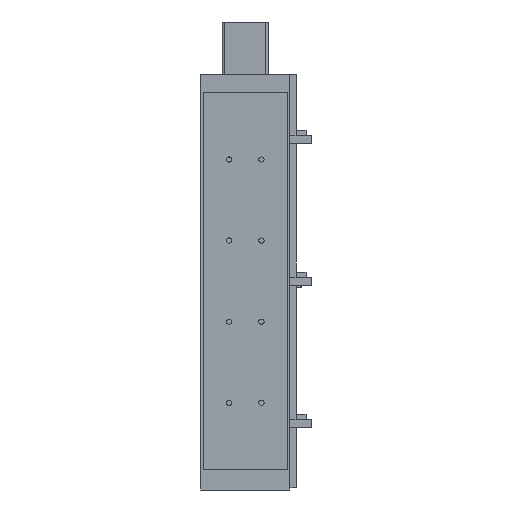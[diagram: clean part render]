
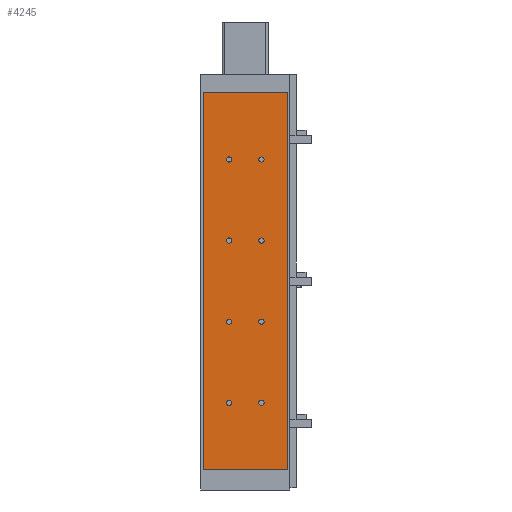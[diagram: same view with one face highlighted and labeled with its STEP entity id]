
A CAD part, front view. The second image highlights one B-rep face of the part: STEP entity #4245.
In plain terms, the highlighted planar face has unit normal (0, -1, 0).
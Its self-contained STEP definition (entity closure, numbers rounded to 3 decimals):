
#105=CARTESIAN_POINT('',(-23.25,0.,407.5));
#106=VERTEX_POINT('',#105);
#107=CARTESIAN_POINT('',(-20.,0.0,407.5));
#108=DIRECTION('',(0.0,1.0,0.0));
#109=DIRECTION('',(1.0,0.0,0.0));
#110=AXIS2_PLACEMENT_3D('',#107,#108,#109);
#111=CIRCLE('',#110,3.25);
#112=EDGE_CURVE('',#106,#106,#111,.T.);
#213=CARTESIAN_POINT('',(16.75,0.,407.5));
#214=VERTEX_POINT('',#213);
#215=CARTESIAN_POINT('',(20.,0.0,407.5));
#216=DIRECTION('',(0.0,1.0,0.0));
#217=DIRECTION('',(1.0,0.0,0.0));
#218=AXIS2_PLACEMENT_3D('',#215,#216,#217);
#219=CIRCLE('',#218,3.25);
#220=EDGE_CURVE('',#214,#214,#219,.T.);
#290=CARTESIAN_POINT('',(16.75,0.,107.5));
#291=VERTEX_POINT('',#290);
#292=CARTESIAN_POINT('',(20.,0.0,107.5));
#293=DIRECTION('',(0.0,1.0,0.0));
#294=DIRECTION('',(1.0,0.0,0.0));
#295=AXIS2_PLACEMENT_3D('',#292,#293,#294);
#296=CIRCLE('',#295,3.25);
#297=EDGE_CURVE('',#291,#291,#296,.T.);
#336=CARTESIAN_POINT('',(-23.25,0.,107.5));
#337=VERTEX_POINT('',#336);
#338=CARTESIAN_POINT('',(-20.,0.0,107.5));
#339=DIRECTION('',(0.0,1.0,0.0));
#340=DIRECTION('',(1.0,0.0,0.0));
#341=AXIS2_PLACEMENT_3D('',#338,#339,#340);
#342=CIRCLE('',#341,3.25);
#343=EDGE_CURVE('',#337,#337,#342,.T.);
#444=CARTESIAN_POINT('',(16.75,0.,307.5));
#445=VERTEX_POINT('',#444);
#446=CARTESIAN_POINT('',(20.,0.0,307.5));
#447=DIRECTION('',(0.0,1.0,0.0));
#448=DIRECTION('',(1.0,0.0,0.0));
#449=AXIS2_PLACEMENT_3D('',#446,#447,#448);
#450=CIRCLE('',#449,3.25);
#451=EDGE_CURVE('',#445,#445,#450,.T.);
#521=CARTESIAN_POINT('',(-23.25,0.,307.5));
#522=VERTEX_POINT('',#521);
#523=CARTESIAN_POINT('',(-20.,0.0,307.5));
#524=DIRECTION('',(0.0,1.0,0.0));
#525=DIRECTION('',(1.0,0.0,0.0));
#526=AXIS2_PLACEMENT_3D('',#523,#524,#525);
#527=CIRCLE('',#526,3.25);
#528=EDGE_CURVE('',#522,#522,#527,.T.);
#598=CARTESIAN_POINT('',(16.75,0.,207.5));
#599=VERTEX_POINT('',#598);
#600=CARTESIAN_POINT('',(20.,0.0,207.5));
#601=DIRECTION('',(0.0,1.0,0.0));
#602=DIRECTION('',(1.0,0.0,0.0));
#603=AXIS2_PLACEMENT_3D('',#600,#601,#602);
#604=CIRCLE('',#603,3.25);
#605=EDGE_CURVE('',#599,#599,#604,.T.);
#675=CARTESIAN_POINT('',(-23.25,0.,207.5));
#676=VERTEX_POINT('',#675);
#677=CARTESIAN_POINT('',(-20.,0.0,207.5));
#678=DIRECTION('',(0.0,1.0,0.0));
#679=DIRECTION('',(1.0,0.0,0.0));
#680=AXIS2_PLACEMENT_3D('',#677,#678,#679);
#681=CIRCLE('',#680,3.25);
#682=EDGE_CURVE('',#676,#676,#681,.T.);
#4142=CARTESIAN_POINT('',(52.,0.,25.));
#4143=VERTEX_POINT('',#4142);
#4150=CARTESIAN_POINT('',(-52.0,0.,25.));
#4151=VERTEX_POINT('',#4150);
#4152=CARTESIAN_POINT('',(-52.0,0.,25.));
#4153=DIRECTION('',(1.0,0.0,0.0));
#4154=VECTOR('',#4153,104.0);
#4155=LINE('',#4152,#4154);
#4156=EDGE_CURVE('',#4151,#4143,#4155,.T.);
#4173=CARTESIAN_POINT('',(-52.,0.,490.0));
#4174=VERTEX_POINT('',#4173);
#4175=CARTESIAN_POINT('',(-52.0,0.,25.));
#4176=DIRECTION('',(0.0,0.0,1.0));
#4177=VECTOR('',#4176,465.0);
#4178=LINE('',#4175,#4177);
#4179=EDGE_CURVE('',#4151,#4174,#4178,.T.);
#4198=CARTESIAN_POINT('',(52.0,0.,0.0));
#4199=DIRECTION('',(0.0,-1.0,0.0));
#4200=DIRECTION('',(0.0,0.0,-1.0));
#4201=AXIS2_PLACEMENT_3D('',#4198,#4199,#4200);
#4202=PLANE('',#4201);
#4203=ORIENTED_EDGE('',*,*,#4156,.T.);
#4204=CARTESIAN_POINT('',(52.,0.,490.0));
#4205=VERTEX_POINT('',#4204);
#4206=CARTESIAN_POINT('',(52.,0.,25.));
#4207=DIRECTION('',(0.0,0.0,1.0));
#4208=VECTOR('',#4207,465.0);
#4209=LINE('',#4206,#4208);
#4210=EDGE_CURVE('',#4143,#4205,#4209,.T.);
#4211=ORIENTED_EDGE('',*,*,#4210,.T.);
#4212=CARTESIAN_POINT('',(52.,0.,490.0));
#4213=DIRECTION('',(-1.0,0.0,0.0));
#4214=VECTOR('',#4213,104.);
#4215=LINE('',#4212,#4214);
#4216=EDGE_CURVE('',#4205,#4174,#4215,.T.);
#4217=ORIENTED_EDGE('',*,*,#4216,.T.);
#4218=ORIENTED_EDGE('',*,*,#4179,.F.);
#4219=EDGE_LOOP('',(#4203,#4211,#4217,#4218));
#4220=FACE_OUTER_BOUND('',#4219,.T.);
#4221=ORIENTED_EDGE('',*,*,#112,.T.);
#4222=EDGE_LOOP('',(#4221));
#4223=FACE_BOUND('',#4222,.T.);
#4224=ORIENTED_EDGE('',*,*,#220,.T.);
#4225=EDGE_LOOP('',(#4224));
#4226=FACE_BOUND('',#4225,.T.);
#4227=ORIENTED_EDGE('',*,*,#297,.T.);
#4228=EDGE_LOOP('',(#4227));
#4229=FACE_BOUND('',#4228,.T.);
#4230=ORIENTED_EDGE('',*,*,#343,.T.);
#4231=EDGE_LOOP('',(#4230));
#4232=FACE_BOUND('',#4231,.T.);
#4233=ORIENTED_EDGE('',*,*,#451,.T.);
#4234=EDGE_LOOP('',(#4233));
#4235=FACE_BOUND('',#4234,.T.);
#4236=ORIENTED_EDGE('',*,*,#528,.T.);
#4237=EDGE_LOOP('',(#4236));
#4238=FACE_BOUND('',#4237,.T.);
#4239=ORIENTED_EDGE('',*,*,#605,.T.);
#4240=EDGE_LOOP('',(#4239));
#4241=FACE_BOUND('',#4240,.T.);
#4242=ORIENTED_EDGE('',*,*,#682,.T.);
#4243=EDGE_LOOP('',(#4242));
#4244=FACE_BOUND('',#4243,.T.);
#4245=ADVANCED_FACE('',(#4220,#4223,#4226,#4229,#4232,#4235,#4238,#4241,#4244),#4202,.T.);
